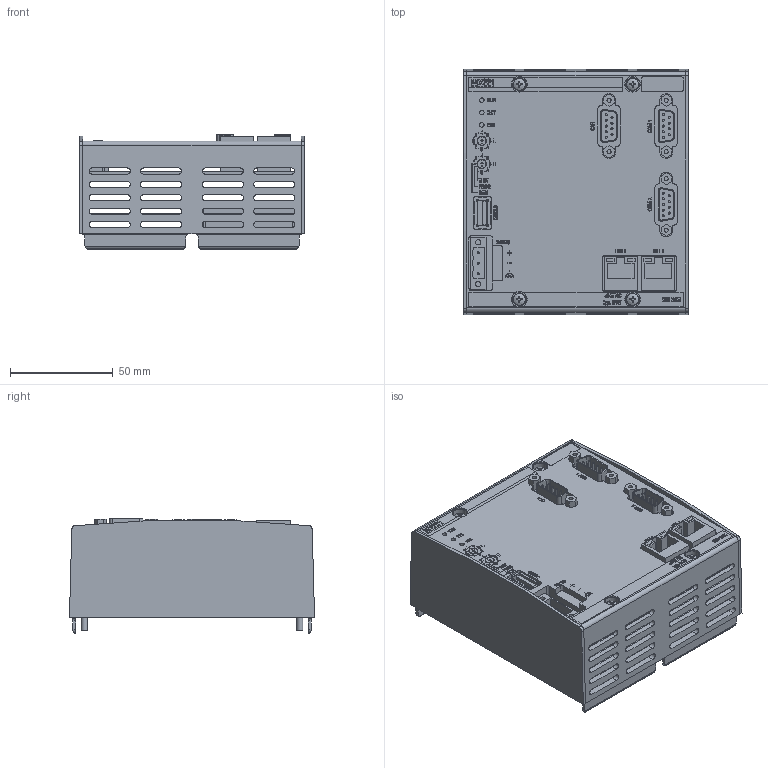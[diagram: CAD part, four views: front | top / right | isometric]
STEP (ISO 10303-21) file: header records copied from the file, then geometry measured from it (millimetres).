
FILE_DESCRIPTION(/* description */ ('MX221'),/* implementation_level */ '2;1');
FILE_NAME(/* name */ 'P:\Others\ePLAN_Library\Product\Daten\M200\MX221\MX221.stp',/* time_stamp */ '2025-05-26T15:39:35+02:00',/* author */ ('schwendm'),/* organization */ ('2025 Bachmann electronic GmbH'),/* preprocessor_version */ 'ST-DEVELOPER v18.1',/* originating_system */ 'Autodesk Inventor 2022',/* authorisation */ '-');
FILE_SCHEMA (('AUTOMOTIVE_DESIGN { 1 0 10303 214 3 1 1 }'));
Products named in the file (1): 00035499
Bounding box: 109 x 119 x 55.65 mm (x, y, z)
Volume: 186467.2 mm3; surface area: 161316.7 mm2
Topology: 45 solids, 45 shells, 2635 faces, 7077 edges, 4714 vertices
Faces by surface type: plane 1682, bspline 612, cylinder 301, cone 36, sphere 4
Full cylindrical faces by diameter (mm): 1 x30, 2 x6, 2.2 x3, 2.32 x4, 2.459 x4, 2.5 x2, 3 x4, 3.5 x4, 3.82 x2, 4.1 x4, 4.5 x2, 6.6 x4, 7.6 x3
Entity records: 86195 total; most frequent: CARTESIAN_POINT 20807, ORIENTED_EDGE 14146, DIRECTION 10512, EDGE_CURVE 7073, LINE 5048, VECTOR 5048, VERTEX_POINT 4714, EDGE_LOOP 2963
